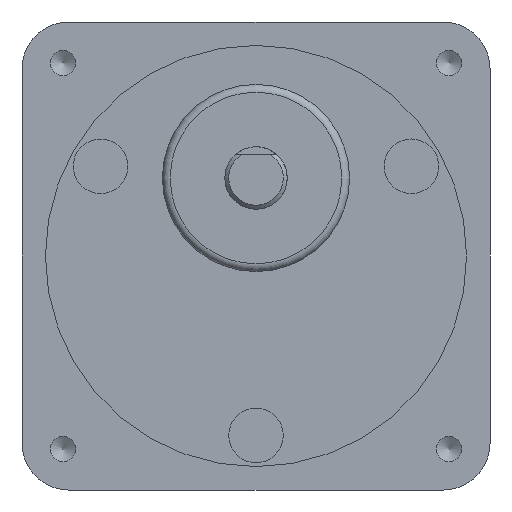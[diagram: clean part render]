
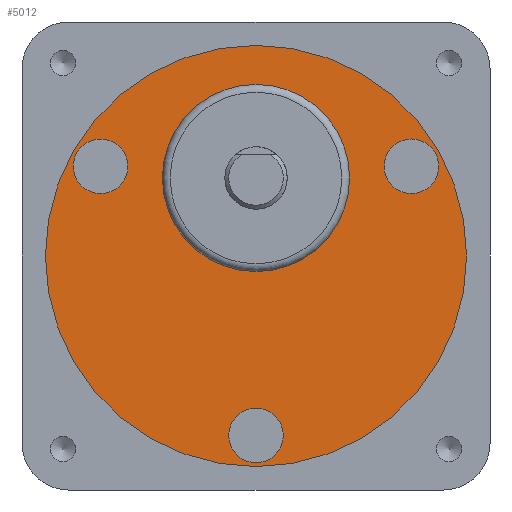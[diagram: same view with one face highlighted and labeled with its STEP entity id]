
A CAD part, front view. The second image highlights one B-rep face of the part: STEP entity #5012.
In plain terms, the highlighted planar face has unit normal (0, -1, 0).
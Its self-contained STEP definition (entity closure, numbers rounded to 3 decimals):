
#3692=CARTESIAN_POINT('',(18.169,-3.5,14.531));
#3693=VERTEX_POINT('',#3692);
#3694=CARTESIAN_POINT('',(19.919,-3.5,11.5));
#3695=DIRECTION('',(0.0,1.0,0.0));
#3696=DIRECTION('',(0.5,0.0,-0.866));
#3697=AXIS2_PLACEMENT_3D('',#3694,#3695,#3696);
#3698=CIRCLE('',#3697,3.5);
#3699=EDGE_CURVE('',#3693,#3693,#3698,.T.);
#3729=CARTESIAN_POINT('',(-21.669,-3.5,8.469));
#3730=VERTEX_POINT('',#3729);
#3731=CARTESIAN_POINT('',(-19.919,-3.5,11.5));
#3732=DIRECTION('',(0.0,1.,0.0));
#3733=DIRECTION('',(0.5,0.0,0.866));
#3734=AXIS2_PLACEMENT_3D('',#3731,#3732,#3733);
#3735=CIRCLE('',#3734,3.5);
#3736=EDGE_CURVE('',#3730,#3730,#3735,.T.);
#3766=CARTESIAN_POINT('',(3.5,-3.5,-23.));
#3767=VERTEX_POINT('',#3766);
#3768=CARTESIAN_POINT('',(0.,-3.5,-23.));
#3769=DIRECTION('',(0.0,1.0,0.0));
#3770=DIRECTION('',(-1.0,0.0,0.0));
#3771=AXIS2_PLACEMENT_3D('',#3768,#3769,#3770);
#3772=CIRCLE('',#3771,3.5);
#3773=EDGE_CURVE('',#3767,#3767,#3772,.T.);
#4961=CARTESIAN_POINT('',(27.,-3.5,0.));
#4962=VERTEX_POINT('',#4961);
#4963=CARTESIAN_POINT('',(0.,-3.5,0.));
#4964=DIRECTION('',(0.0,-1.0,0.0));
#4965=DIRECTION('',(-1.0,0.0,0.0));
#4966=AXIS2_PLACEMENT_3D('',#4963,#4964,#4965);
#4967=CIRCLE('',#4966,27.0);
#4968=EDGE_CURVE('',#4962,#4962,#4967,.T.);
#4984=CARTESIAN_POINT('',(0.,-3.5,0.));
#4985=DIRECTION('',(0.0,1.0,0.0));
#4986=DIRECTION('',(0.0,0.0,1.0));
#4987=AXIS2_PLACEMENT_3D('',#4984,#4985,#4986);
#4988=PLANE('',#4987);
#4989=ORIENTED_EDGE('',*,*,#4968,.T.);
#4990=EDGE_LOOP('',(#4989));
#4991=FACE_OUTER_BOUND('',#4990,.T.);
#4992=ORIENTED_EDGE('',*,*,#3699,.T.);
#4993=EDGE_LOOP('',(#4992));
#4994=FACE_BOUND('',#4993,.T.);
#4995=ORIENTED_EDGE('',*,*,#3736,.T.);
#4996=EDGE_LOOP('',(#4995));
#4997=FACE_BOUND('',#4996,.T.);
#4998=ORIENTED_EDGE('',*,*,#3773,.T.);
#4999=EDGE_LOOP('',(#4998));
#5000=FACE_BOUND('',#4999,.T.);
#5001=CARTESIAN_POINT('',(12.,-3.5,10.0));
#5002=VERTEX_POINT('',#5001);
#5003=CARTESIAN_POINT('',(0.,-3.5,10.));
#5004=DIRECTION('',(0.0,-1.0,0.0));
#5005=DIRECTION('',(-1.0,0.0,0.0));
#5006=AXIS2_PLACEMENT_3D('',#5003,#5004,#5005);
#5007=CIRCLE('',#5006,12.);
#5008=EDGE_CURVE('',#5002,#5002,#5007,.T.);
#5009=ORIENTED_EDGE('',*,*,#5008,.F.);
#5010=EDGE_LOOP('',(#5009));
#5011=FACE_BOUND('',#5010,.T.);
#5012=ADVANCED_FACE('',(#4991,#4994,#4997,#5000,#5011),#4988,.F.);
